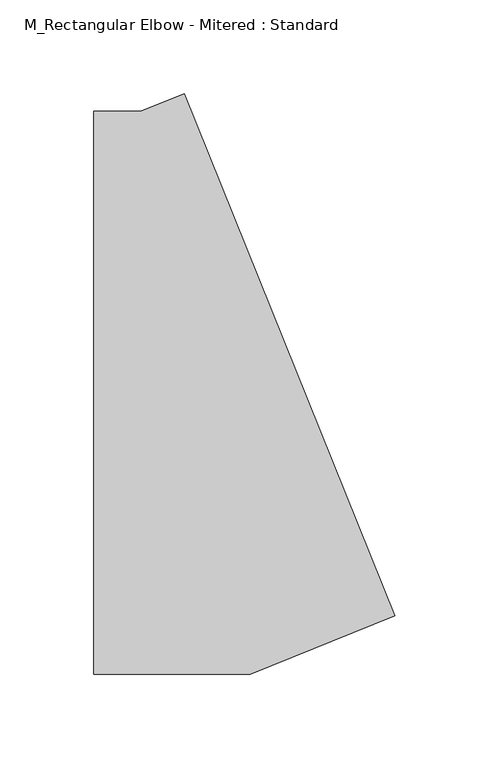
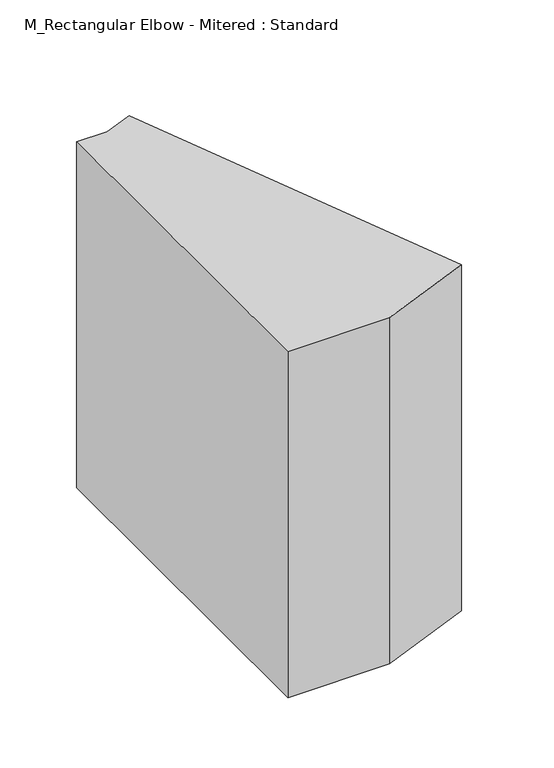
"""IFC4 building model written with IfcOpenShell, lengths in millimetres: duct fitting geometry, M_Rectangular Elbow - Mitered : Standard."""

from ifc_helpers import new_model, si_unit, frame, origin, place, context, project, spatial, polyline, outline, extrude, source, transform, mapped, element, save


def m_rectangular_elbow_mitered_standard_7be7aa46(model_context):
    return source(origin(), model_context, "Body", "SweptSolid", [
        extrude(outline(polyline([(-54.1570464, -150.0), (-54.1570464, 150.0), (-29.1570464, 150.0), (-5.97745, 159.3651648), (106.404528, -118.7899915), (29.1570464, -150.0), (-54.1570464, -150.0)])), frame((0.0, 0.0, -150.0), z_axis=(0.0, 0.0, 1.0), x_axis=(1.0, 0.0, 0.0)), (0.0, 0.0, 1.0), 300.0),
        extrude(outline(polyline([(-54.1570464, -150.0), (-54.1570464, 150.0), (-29.1570464, 150.0), (-5.97745, 159.3651648), (106.404528, -118.7899915), (29.1570464, -150.0), (-54.1570464, -150.0)])), frame((0.0, 0.0, -150.0), z_axis=(0.0, 0.0, 1.0), x_axis=(1.0, 0.0, 0.0)), (0.0, 0.0, 1.0), 300.0),
        extrude(outline(polyline([(-54.1570464, -150.0), (-54.1570464, 150.0), (-29.1570464, 150.0), (-5.97745, 159.3651648), (106.404528, -118.7899915), (29.1570464, -150.0), (-54.1570464, -150.0)])), frame((0.0, 0.0, -150.0), z_axis=(0.0, 0.0, 1.0), x_axis=(1.0, 0.0, 0.0)), (0.0, 0.0, 1.0), 300.0),
    ])


if __name__ == "__main__":
    model = new_model("IFC4")
    model_context = context("Model", 3, world=origin())
    ifc_project = project(units=[si_unit("LENGTHUNIT", "METRE", prefix="MILLI")], contexts=[model_context])
    site = spatial("IfcSite", under=ifc_project)
    building = spatial("IfcBuilding", under=site)
    placement = place(None, origin())
    m_rectangular_elbow_mitered_standard_shape = m_rectangular_elbow_mitered_standard_7be7aa46(model_context)
    element("IfcDuctFitting", 1, ObjectType="M_Rectangular Elbow - Mitered : Standard", at=placement, inside=building, context=model_context, shape_type="MappedRepresentation", body=[
        mapped(m_rectangular_elbow_mitered_standard_shape, transform((0.0, 0.0, 0.0), x_axis=(1.0, 0.0, 0.0), y_axis=(0.0, 1.0, 0.0), z_axis=(0.0, 0.0, 1.0))),
    ])
    save(model, "model.ifc")
